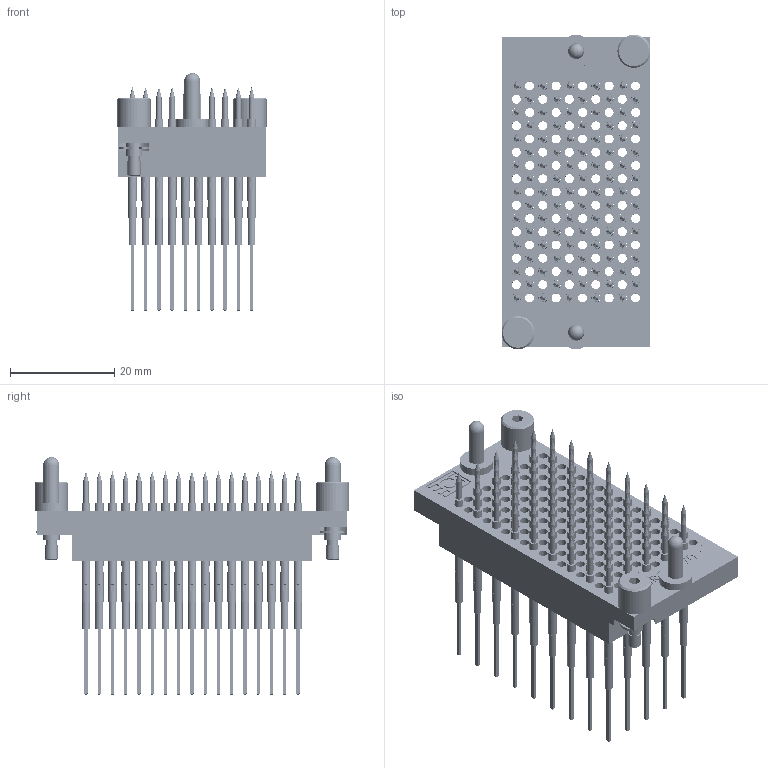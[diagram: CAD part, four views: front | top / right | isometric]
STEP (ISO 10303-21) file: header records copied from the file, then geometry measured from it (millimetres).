
FILE_DESCRIPTION (( 'STEP AP214' ), '1' );
FILE_NAME ('820491FLOAT_CA.STEP', '2017-04-13T15:58:14', ( '' ), ( '' ), 'SwSTEP 2.0', 'SolidWorks 2014', '' );
FILE_SCHEMA (( 'AUTOMOTIVE_DESIGN' ));
Length unit declared in the file: millimetre
Products named in the file (8): EPA-2B40; E-TYPE-RETAINING (INCH)_0.125" (VG); SPR-2W-2; B23245-11; 923067; 29675a1_#4-40"; 820410; 820491FLOAT_CA
Assembly tree (179 placements, depth 2):
  820491FLOAT_CA
    820410
    29675a1_#4-40"  x2
    923067  x2
    B23245-11  x2
    SPR-2W-2  x85
    E-TYPE-RETAINING (INCH)_0.125" (VG)  x2
    EPA-2B40  x85
Bounding box: 28.57 x 60.33 x 45.62 mm (x, y, z)
Volume: 15693.3 mm3; surface area: 44246.4 mm2
Topology: 179 solids, 179 shells, 6743 faces, 16087 edges, 10181 vertices
Faces by surface type: plane 3157, cylinder 1947, bspline 945, cone 692, sphere 2
Entity records: 38207 total; most frequent: CARTESIAN_POINT 12088, DIRECTION 4505, ORIENTED_EDGE 4318, EDGE_CURVE 2159, AXIS2_PLACEMENT_3D 1704, VERTEX_POINT 1431, EDGE_LOOP 1202, LINE 1097
